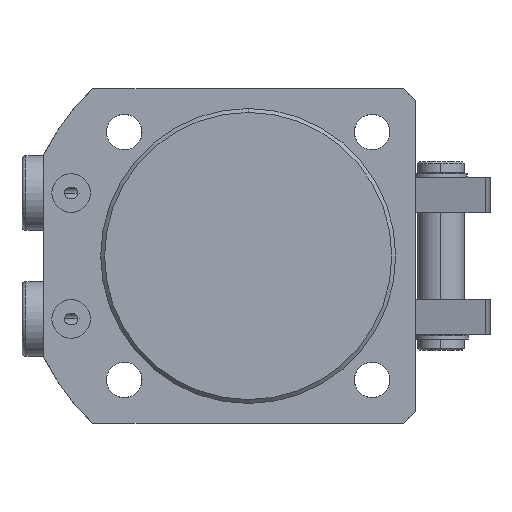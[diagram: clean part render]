
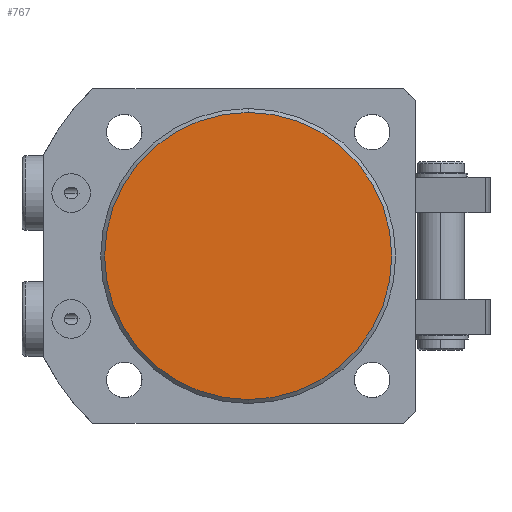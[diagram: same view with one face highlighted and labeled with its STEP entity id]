
A CAD part, front view. The second image highlights one B-rep face of the part: STEP entity #767.
In plain terms, the highlighted planar face has unit normal (0, -1, 0).
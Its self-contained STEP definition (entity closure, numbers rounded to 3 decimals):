
#31 = EDGE_LOOP ( 'NONE', ( #1714, #2638 ) ) ;
#318 = CIRCLE ( 'NONE', #753, 36.5 ) ;
#429 = PLANE ( 'NONE',  #6428 ) ;
#753 = AXIS2_PLACEMENT_3D ( 'NONE', #1040, #5194, #1645 ) ;
#767 = ADVANCED_FACE ( 'NONE', ( #6278 ), #429, .F. ) ;
#858 = CARTESIAN_POINT ( 'NONE',  ( 0., 0., -36.5 ) ) ;
#997 = DIRECTION ( 'NONE',  ( 0., 0., 1. ) ) ;
#1040 = CARTESIAN_POINT ( 'NONE',  ( 0., 0., 0. ) ) ;
#1645 = DIRECTION ( 'NONE',  ( 0., 0., 1. ) ) ;
#1714 = ORIENTED_EDGE ( 'NONE', *, *, #6535, .T. ) ;
#2638 = ORIENTED_EDGE ( 'NONE', *, *, #6423, .T. ) ;
#3197 = VERTEX_POINT ( 'NONE', #4043 ) ;
#3543 = CARTESIAN_POINT ( 'NONE',  ( 0., 0., 0. ) ) ;
#4043 = CARTESIAN_POINT ( 'NONE',  ( 0., 0., 36.5 ) ) ;
#4131 = DIRECTION ( 'NONE',  ( 0., 0., 1. ) ) ;
#5152 = DIRECTION ( 'NONE',  ( 0., 1., 0. ) ) ;
#5194 = DIRECTION ( 'NONE',  ( 0., -1., 0. ) ) ;
#5415 = CIRCLE ( 'NONE', #5660, 36.5 ) ;
#5660 = AXIS2_PLACEMENT_3D ( 'NONE', #3543, #7674, #4131 ) ;
#6278 = FACE_OUTER_BOUND ( 'NONE', #31, .T. ) ;
#6423 = EDGE_CURVE ( 'NONE', #6894, #3197, #5415, .T. ) ;
#6428 = AXIS2_PLACEMENT_3D ( 'NONE', #6925, #5152, #997 ) ;
#6535 = EDGE_CURVE ( 'NONE', #3197, #6894, #318, .T. ) ;
#6894 = VERTEX_POINT ( 'NONE', #858 ) ;
#6925 = CARTESIAN_POINT ( 'NONE',  ( 0., 0., 0. ) ) ;
#7674 = DIRECTION ( 'NONE',  ( 0., -1., 0. ) ) ;
